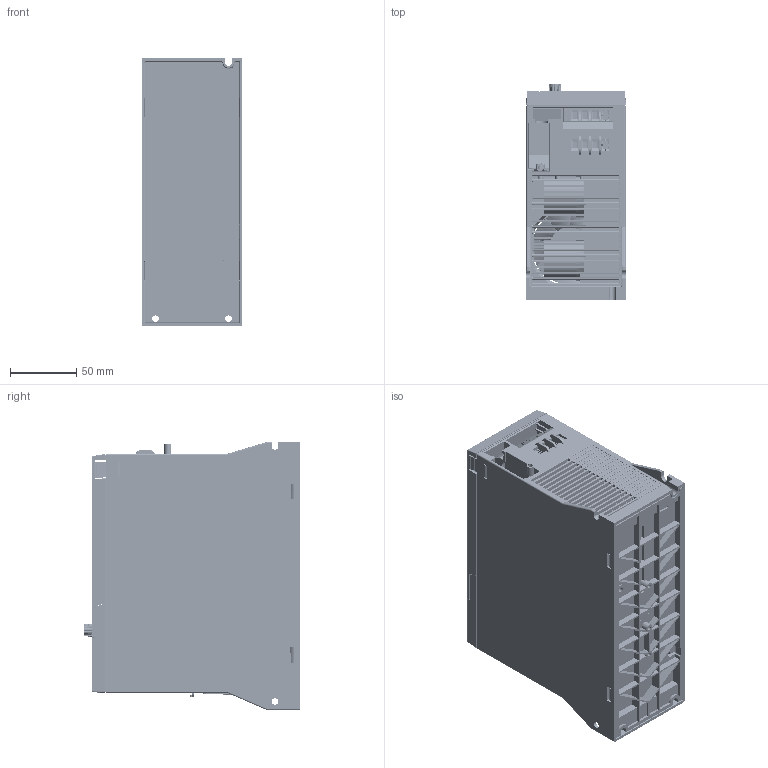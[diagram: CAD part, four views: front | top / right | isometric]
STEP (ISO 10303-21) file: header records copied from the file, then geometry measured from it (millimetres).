
FILE_DESCRIPTION((''),'2;1');
FILE_NAME('00-AC10-T3-004G-VEDA_ASM','2023-07-12T',('v3932'),(''),'CREO PARAMETRIC BY PTC INC, 2016260','CREO PARAMETRIC BY PTC INC, 2016260','');
FILE_SCHEMA(('AP203_CONFIGURATION_CONTROLLED_3D_DESIGN_OF_MECHANICAL_PARTS_AND_ASSEMBLIES_MIM_LF { 1 0 10303 403 2 1 2 }'));
Products named in the file (77): ELT-XHS-2A-2_5; ELT-XHS-2Y-2_5; ELT-XHS-2P-2_5_ASM; STGF15H60DF; GBJ2510-90; PCB_TERMINAL; TJ952-02-4P-T2; PCB_TERMINAL_ASM; AC10M2R2L0-A1R0_ASM; F06025N68D024_SM085-1390010006; ELT-RNB-5_5-5; TEMP-M3; RJ45; BYQ; P25R12W2T4-1010010024; AC10M5R5H40-L001; AC10M5R5H40-L002; AC10M5R5H40_3; 12NAB12T4V1_3_1; 12NAB12T4V1_3_2; 12NAB12T4V1_3_ASM; TO-3PF_3; PCB_AC10P1-2R2_3; ELT-XHS-2A-2_5_3; ELT-XHS-2Y-2_5_3; ELT-XHS-2P-2_5_ASM_3_ASM; AC10M5R5H40_ASM_3_ASM; PCB_AC10CON1_4; DG127-508-03P-1Y-00A_18; SWITCH_6X6_3; SMG_3; EL-DWG_3; DS-04_3; 12P_1_3; PRT0002_1_3; PRT0003_1_3; PRT0004_2_3; ASM0001_ASM_4_ASM_3_ASM; PCB_AC10CON1_ASM_4_ASM; PCB_TERMINAL_3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
Assembly tree (127 placements, depth 7):
  00-AC10-T3-004G-VEDA_ASM
    AC10-T3-004G-D_ASM
      AC10M2R2L0-A1R0_ASM
        ELT-XHS-2P-2_5_ASM  x2
          ELT-XHS-2A-2_5
          ELT-XHS-2Y-2_5
        STGF15H60DF  x7
        GBJ2510-90
        PCB_TERMINAL_ASM
          PCB_TERMINAL
          TJ952-02-4P-T2
      PCB_TERMINAL_ASM
        PCB_TERMINAL
        TJ952-02-4P-T2
      F06025N68D024_SM085-1390010006
      ELT-RNB-5_5-5
      TEMP-M3
      RJ45  x2
      BYQ
      P25R12W2T4-1010010024
      AC10M5R5H40-L001
      AC10M5R5H40-L002
      AC10-T3-004G-D_ASM_ASM
        AC10-T3-004G-D_ASM_17_ASM
          AC10M5R5H40_ASM_3_ASM
            AC10M5R5H40_3
            12NAB12T4V1_3_ASM
              12NAB12T4V1_3_1
              12NAB12T4V1_3_2
            TO-3PF_3
            PCB_AC10P1-2R2_3
            ELT-XHS-2P-2_5_ASM_3_ASM
              ELT-XHS-2A-2_5_3
              ELT-XHS-2Y-2_5_3
          PCB_AC10CON1_ASM_4_ASM
            PCB_AC10CON1_4
            DG127-508-03P-1Y-00A_18
            SWITCH_6X6_3  x6
            SMG_3
            EL-DWG_3
            DS-04_3
            ASM0001_ASM_4_ASM_3_ASM
              12P_1_3
              PRT0002_1_3  x12
              PRT0003_1_3  x12
              PRT0004_2_3  x12
          PCB_TERMINAL_ASM_3_ASM
            PCB_TERMINAL_3
            TJ952-02-4P-T2_3
          F06025N68D024_SM085-1390010006__ASM
            F06025N68D024_SM085-139001000_1
            F06025N68D024_SM085-139001000_2
            F06025N68D024_SM085-139001000_3
          ELT-RNB-5_5-5_3
          TEMP-M3_3
          RJ45_3  x2
          BYQ_3
          P25R12W2T4-1010010024_3
          AC10M5R5H40-L001_8
          AC10M5R5H40-L002_9
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Bounding box: 75 x 163.05 x 202 mm (x, y, z)
Volume: 868003.1 mm3; surface area: 692424.6 mm2
Topology: 115 solids, 126 shells, 14380 faces, 69467 edges, 69997 vertices
Faces by surface type: plane 8869, cylinder 2739, extrusion 1035, bspline 757, cone 652, torus 281, sphere 47
Entity records: 823613 total; most frequent: CARTESIAN_POINT 169690, DIRECTION 91873, PRESENTATION_STYLE_ASSIGNMENT 63840, ORIENTED_EDGE 63580, STYLED_ITEM 63096, CURVE_STYLE 58928, VECTOR 40225, LINE 39190
